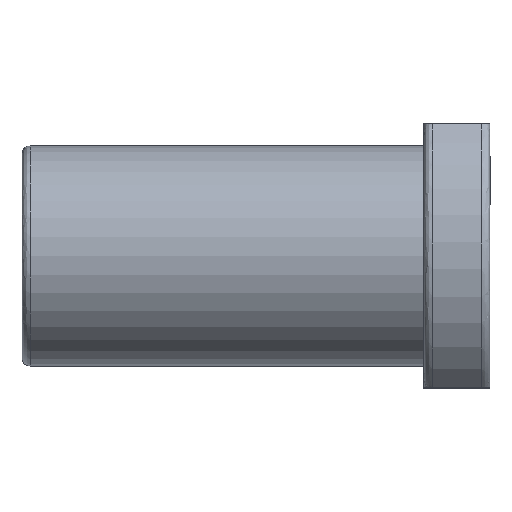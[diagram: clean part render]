
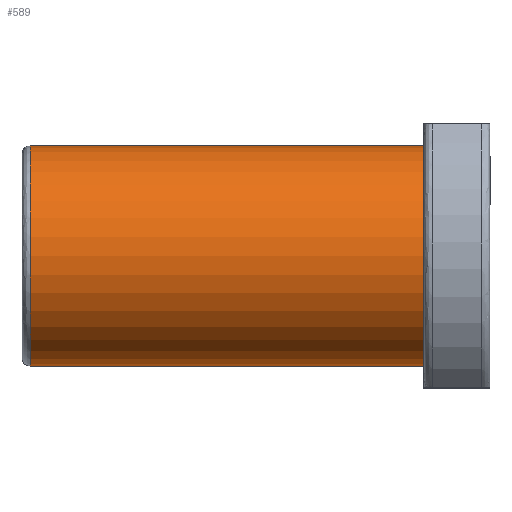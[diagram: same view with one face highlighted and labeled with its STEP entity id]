
A CAD part, top view. The second image highlights one B-rep face of the part: STEP entity #589.
In plain terms, the highlighted cylindrical face has radius 20 mm (diameter 40 mm), a partial arc.
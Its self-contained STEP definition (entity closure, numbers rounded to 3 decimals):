
#61 = CARTESIAN_POINT ( 'NONE',  ( -98.5, 0., 0. ) ) ;
#94 = EDGE_LOOP ( 'NONE', ( #102, #1793, #126, #1687 ) ) ;
#102 = ORIENTED_EDGE ( 'NONE', *, *, #426, .T. ) ;
#118 = VERTEX_POINT ( 'NONE', #473 ) ;
#122 = LINE ( 'NONE', #1972, #196 ) ;
#126 = ORIENTED_EDGE ( 'NONE', *, *, #228, .T. ) ;
#158 = CIRCLE ( 'NONE', #1300, 20. ) ;
#196 = VECTOR ( 'NONE', #603, 1000. ) ;
#228 = EDGE_CURVE ( 'NONE', #1996, #1496, #1395, .T. ) ;
#426 = EDGE_CURVE ( 'NONE', #118, #1783, #158, .T. ) ;
#431 = DIRECTION ( 'NONE',  ( 1., 0., 0. ) ) ;
#441 = DIRECTION ( 'NONE',  ( 0., 1., 0. ) ) ;
#473 = CARTESIAN_POINT ( 'NONE',  ( -98.5, 20., 0. ) ) ;
#495 = DIRECTION ( 'NONE',  ( 0., 1., 0. ) ) ;
#508 = AXIS2_PLACEMENT_3D ( 'NONE', #1140, #1883, #495 ) ;
#562 = VECTOR ( 'NONE', #582, 1000. ) ;
#582 = DIRECTION ( 'NONE',  ( 1., 0., 0. ) ) ;
#589 = ADVANCED_FACE ( 'NONE', ( #1678 ), #1544, .T. ) ;
#603 = DIRECTION ( 'NONE',  ( 1., 0., 0. ) ) ;
#623 = CARTESIAN_POINT ( 'NONE',  ( -98.5, 0., 0. ) ) ;
#682 = EDGE_CURVE ( 'NONE', #118, #1496, #122, .T. ) ;
#700 = CARTESIAN_POINT ( 'NONE',  ( -98.5, -20., 0. ) ) ;
#900 = LINE ( 'NONE', #1530, #562 ) ;
#1118 = DIRECTION ( 'NONE',  ( 0., 1., 0. ) ) ;
#1139 = EDGE_CURVE ( 'NONE', #1783, #1996, #900, .T. ) ;
#1140 = CARTESIAN_POINT ( 'NONE',  ( -27., 0., 0. ) ) ;
#1300 = AXIS2_PLACEMENT_3D ( 'NONE', #61, #1906, #1118 ) ;
#1395 = CIRCLE ( 'NONE', #508, 20. ) ;
#1458 = CARTESIAN_POINT ( 'NONE',  ( -27., 20., 0. ) ) ;
#1491 = AXIS2_PLACEMENT_3D ( 'NONE', #623, #431, #441 ) ;
#1496 = VERTEX_POINT ( 'NONE', #1458 ) ;
#1530 = CARTESIAN_POINT ( 'NONE',  ( -98.5, -20., 0. ) ) ;
#1544 = CYLINDRICAL_SURFACE ( 'NONE', #1491, 20. ) ;
#1654 = CARTESIAN_POINT ( 'NONE',  ( -27., -20., 0. ) ) ;
#1678 = FACE_OUTER_BOUND ( 'NONE', #94, .T. ) ;
#1687 = ORIENTED_EDGE ( 'NONE', *, *, #682, .F. ) ;
#1783 = VERTEX_POINT ( 'NONE', #700 ) ;
#1793 = ORIENTED_EDGE ( 'NONE', *, *, #1139, .T. ) ;
#1883 = DIRECTION ( 'NONE',  ( -1., 0., 0. ) ) ;
#1906 = DIRECTION ( 'NONE',  ( 1., 0., 0. ) ) ;
#1972 = CARTESIAN_POINT ( 'NONE',  ( -98.5, 20., 0. ) ) ;
#1996 = VERTEX_POINT ( 'NONE', #1654 ) ;
